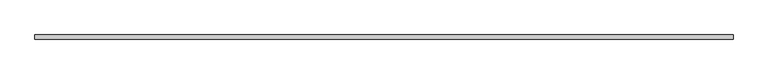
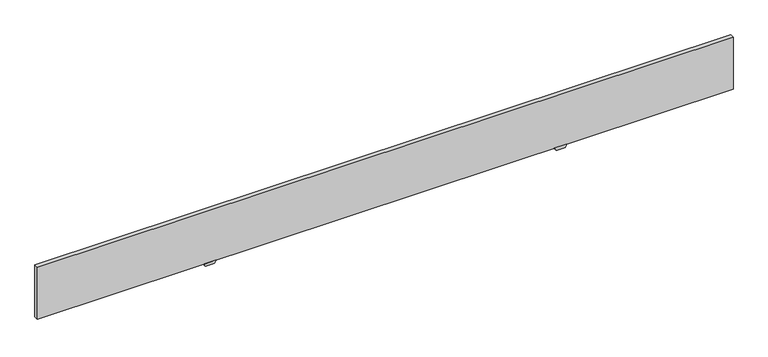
"""IFC4 building model written with IfcOpenShell, lengths in millimetres: proxy geometry."""

import ifcopenshell
import ifcopenshell.guid

model = None  # the IFC model being written
_history = None  # IfcOwnerHistory: only IFC2X3 demands one
_inside = {}  # id of a spatial element -> (the spatial element, [elements in it])
_under = {}  # id of a project, library or spatial element -> (it, [spatial elements below it])
_declared = {}  # id of a project -> (the project, [libraries it declares])
_typed = {}  # id of a type object -> (the type object, [elements of that type])
_made_of = {}  # id of a material, layer set ... -> (it, [elements and type objects made of it])


def new_model(schema):
    """Start an empty IFC model of exactly this schema.

    Asked for "IFC4X3", IfcOpenShell would pick the latest addendum, in which some entities
    have other attributes; the version numbers below select the first issue.
    IFC2X3 requires an IfcOwnerHistory on every rooted entity: one is made here for all.
    """
    global model, _history
    if schema == "IFC4X3":
        model = ifcopenshell.file(schema_version=(4, 3, 0, 0))
    else:
        model = ifcopenshell.file(schema=schema)
    _inside.clear()
    _under.clear()
    _declared.clear()
    _typed.clear()
    _made_of.clear()
    _history = None
    if model.schema == "IFC2X3":
        org = make("IfcOrganization", Name="unknown")
        user = make(
            "IfcPersonAndOrganization",
            ThePerson=make("IfcPerson", FamilyName="unknown"),
            TheOrganization=org,
        )
        app = make(
            "IfcApplication",
            ApplicationDeveloper=org,
            Version="unknown",
            ApplicationFullName="unknown",
            ApplicationIdentifier="unknown",
        )
        _history = make(
            "IfcOwnerHistory",
            OwningUser=user,
            OwningApplication=app,
            ChangeAction="ADDED",
            CreationDate=0,
        )
    return model


def make(cls, **values):
    """One entity of the class cls with the attributes given. An attribute that is None is left unset."""
    return model.create_entity(
        cls, **{name: value for name, value in values.items() if value is not None}
    )


def rooted(cls, **values):
    """An entity with a GlobalId (a new one), such as an element, a storey or a relation."""
    return make(cls, GlobalId=ifcopenshell.guid.new(), OwnerHistory=_history, **values)


def si_unit(unit_type, name, prefix=None):
    """IfcSIUnit, for example si_unit("LENGTHUNIT", "METRE", prefix="MILLI")."""
    return make("IfcSIUnit", UnitType=unit_type, Prefix=prefix, Name=name)


def assignment(units):
    """IfcUnitAssignment: the units of a project."""
    return None if units is None else make("IfcUnitAssignment", Units=units)


def point(xyz):
    """IfcCartesianPoint."""
    return None if xyz is None else make("IfcCartesianPoint", Coordinates=xyz)


def direction(xyz):
    """IfcDirection."""
    return None if xyz is None else make("IfcDirection", DirectionRatios=xyz)


def frame(location, z_axis=None, x_axis=None):
    """IfcAxis2Placement3D, a coordinate frame: its origin and axes. An axis left out is left unset."""
    return make(
        "IfcAxis2Placement3D",
        Location=point(location),
        Axis=direction(z_axis),
        RefDirection=direction(x_axis),
    )


def origin():
    """The frame at (0, 0, 0) with its axes left unset."""
    return frame((0.0, 0.0, 0.0))


def origin_with_axes():
    """The frame at (0, 0, 0) with the z axis (0, 0, 1) and the x axis (1, 0, 0) written out."""
    return frame((0.0, 0.0, 0.0), z_axis=(0.0, 0.0, 1.0), x_axis=(1.0, 0.0, 0.0))


def place(relative_to, where):
    """IfcLocalPlacement: puts the frame where relative to a parent placement (None: the world)."""
    return make(
        "IfcLocalPlacement", PlacementRelTo=relative_to, RelativePlacement=where
    )


def context(
    kind, dimensions, precision=None, world=None, true_north=None, identifier=None
):
    """IfcGeometricRepresentationContext, for example the 3D "Model" context."""
    return make(
        "IfcGeometricRepresentationContext",
        ContextIdentifier=identifier,
        ContextType=kind,
        CoordinateSpaceDimension=dimensions,
        Precision=precision,
        WorldCoordinateSystem=world,
        TrueNorth=true_north,
    )


def project(units=None, contexts=None):
    """IfcProject with its units and contexts."""
    return rooted(
        "IfcProject",
        Name="project",
        RepresentationContexts=contexts,
        UnitsInContext=assignment(units),
    )


def spatial(cls, under=None, at=None, **own):
    """A site, building, storey or space (cls), placed at a placement, below another one or the project."""
    s = rooted(cls, ObjectPlacement=at, **own)
    if under is not None:
        _under.setdefault(under.id(), (under, []))[1].append(s)
    return s


def polyline(points):
    """IfcPolyline through the points."""
    return make("IfcPolyline", Points=[point(p) for p in points])


def outline(outer, holes=None, kind="AREA"):
    """IfcArbitraryClosedProfileDef: a profile drawn as a closed curve; with holes, ...WithVoids."""
    if holes is None:
        return make("IfcArbitraryClosedProfileDef", ProfileType=kind, OuterCurve=outer)
    return make(
        "IfcArbitraryProfileDefWithVoids",
        ProfileType=kind,
        OuterCurve=outer,
        InnerCurves=holes,
    )


def extrude(swept, where, along, depth):
    """IfcExtrudedAreaSolid: the profile swept, set in the frame where, extruded along a direction by depth."""
    return make(
        "IfcExtrudedAreaSolid",
        SweptArea=swept,
        Position=where,
        ExtrudedDirection=direction(along),
        Depth=depth,
    )


def shape(context_of_items, identifier, shape_type, items):
    """IfcShapeRepresentation: the items that make up one representation, for example the "Body"."""
    return make(
        "IfcShapeRepresentation",
        ContextOfItems=context_of_items,
        RepresentationIdentifier=identifier,
        RepresentationType=shape_type,
        Items=items,
    )


def source(mapping_origin, context_of_items, identifier, shape_type, items):
    """IfcRepresentationMap: a shape defined once, which mapped items show again and again."""
    return make(
        "IfcRepresentationMap",
        MappingOrigin=mapping_origin,
        MappedRepresentation=shape(context_of_items, identifier, shape_type, items),
    )


def transform(
    local_origin,
    x_axis=None,
    y_axis=None,
    z_axis=None,
    scale=None,
    scale2=None,
    scale3=None,
    uniform=True,
):
    """IfcCartesianTransformationOperator3D, or its non-uniform kind. x_axis, y_axis, z_axis: its Axis1, 2, 3."""
    if uniform:
        return make(
            "IfcCartesianTransformationOperator3D",
            Axis1=direction(x_axis),
            Axis2=direction(y_axis),
            LocalOrigin=point(local_origin),
            Scale=scale,
            Axis3=direction(z_axis),
        )
    return make(
        "IfcCartesianTransformationOperator3DnonUniform",
        Axis1=direction(x_axis),
        Axis2=direction(y_axis),
        LocalOrigin=point(local_origin),
        Scale=scale,
        Axis3=direction(z_axis),
        Scale2=scale2,
        Scale3=scale3,
    )


def mapped(mapping_source, mapping_target):
    """IfcMappedItem: shows the shape of a source again, moved by a transform."""
    return make(
        "IfcMappedItem", MappingSource=mapping_source, MappingTarget=mapping_target
    )


def made_of(thing, what):
    """Note that an element or type object is made of a material, layer set ...; save() writes the relation."""
    if what is not None:
        _made_of.setdefault(what.id(), (what, []))[1].append(thing)
    return thing


def element(
    cls,
    number,
    at=None,
    inside=None,
    cuts=None,
    type_object=None,
    material=None,
    context=None,
    identifier="Body",
    shape_type=None,
    held_by="IfcProductDefinitionShape",
    body=None,
    shapes=None,
    **own,
):
    """One element of the class cls, such as IfcWall. Its Tag is "e" and its number.

    at: its placement. inside: the storey or other place that contains it. cuts: it is an
    opening in that element (IfcRelVoidsElement). A single representation is given by context,
    identifier, shape_type and body (its items); several are given by shapes. held_by: the class
    of the entity that holds the representations. save() writes the other relations.
    """
    e = rooted(cls, Tag="e%d" % number, ObjectPlacement=at, **own)
    if body is not None:
        shapes = [shape(context, identifier, shape_type, body)]
    if shapes is not None:
        e.Representation = make(held_by, Representations=shapes)
    if inside is not None:
        _inside.setdefault(inside.id(), (inside, []))[1].append(e)
    if cuts is not None:
        rooted(
            "IfcRelVoidsElement", RelatingBuildingElement=cuts, RelatedOpeningElement=e
        )
    if type_object is not None:
        _typed.setdefault(type_object.id(), (type_object, []))[1].append(e)
    return made_of(e, material)


def aggregate(whole, parts):
    """IfcRelAggregates: a whole, such as a stair, and the parts it consists of."""
    return rooted("IfcRelAggregates", RelatingObject=whole, RelatedObjects=parts)


def save(model, path):
    """Write the relations noted so far, then the file.

    IfcRelAggregates (storeys below a building ...), IfcRelContainedInSpatialStructure (elements
    in a storey), IfcRelDefinesByType, IfcRelAssociatesMaterial and IfcRelDeclares: one each for
    every whole, place, type object, material and project.
    """
    for whole, parts in _under.values():
        aggregate(whole, parts)
    for where, things in _inside.values():
        rooted(
            "IfcRelContainedInSpatialStructure",
            RelatedElements=things,
            RelatingStructure=where,
        )
    for kind, things in _typed.values():
        rooted("IfcRelDefinesByType", RelatedObjects=things, RelatingType=kind)
    for what, things in _made_of.values():
        rooted("IfcRelAssociatesMaterial", RelatedObjects=things, RelatingMaterial=what)
    for by, libraries in _declared.values():
        rooted("IfcRelDeclares", RelatingContext=by, RelatedDefinitions=libraries)
    model.write(path)


def specialty_equipment_bbb3698f(model_context):
    return source(origin(), model_context, "Body", "SweptSolid", [
        extrude(outline(polyline([(0.0, 735.0125), (-12.7, 742.3448484), (-12.7, 781.6551516), (0.0, 788.9875), (0.0, 735.0125)])), frame((0.0, -9.017, 0.0), z_axis=(0.0, 1.0, 0.0), x_axis=(0.0, 0.0, 1.0)), (0.0, 0.0, 1.0), 18.034),
        extrude(outline(polyline([(0.0, -788.9875), (-12.7, -781.6551516), (-12.7, -742.3448484), (0.0, -735.0125), (0.0, -788.9875)])), frame((0.0, -9.017, 0.0), z_axis=(0.0, 1.0, 0.0), x_axis=(0.0, 0.0, 1.0)), (0.0, 0.0, 1.0), 18.034),
        extrude(outline(polyline([(-1511.3, -9.017), (-1511.3, 9.017), (1511.3, 9.017), (1511.3, -9.017), (-1511.3, -9.017)])), origin_with_axes(), (0.0, 0.0, 1.0), 238.252),
    ])


if __name__ == "__main__":
    model = new_model("IFC4")
    model_context = context("Model", 3, world=origin())
    ifc_project = project(units=[si_unit("LENGTHUNIT", "METRE", prefix="MILLI")], contexts=[model_context])
    site = spatial("IfcSite", under=ifc_project)
    building = spatial("IfcBuilding", under=site)
    placement = place(None, origin())
    specialty_equipment_shape = specialty_equipment_bbb3698f(model_context)
    element("IfcBuildingElementProxy", 1, Name="SE_TIMBER BAFFLE_SINGLE_FB_TURF : 119\" - GRIDLOCK", ObjectType="SE_TIMBER BAFFLE_SINGLE_FB_TURF : 119\" - GRIDLOCK", at=placement, inside=building, context=model_context, shape_type="MappedRepresentation", body=[
        mapped(specialty_equipment_shape, transform((0.0, 0.0, 0.0), x_axis=(1.0, 0.0, 0.0), y_axis=(0.0, 1.0, 0.0), z_axis=(0.0, 0.0, 1.0))),
    ])
    save(model, "model.ifc")
